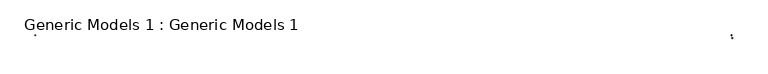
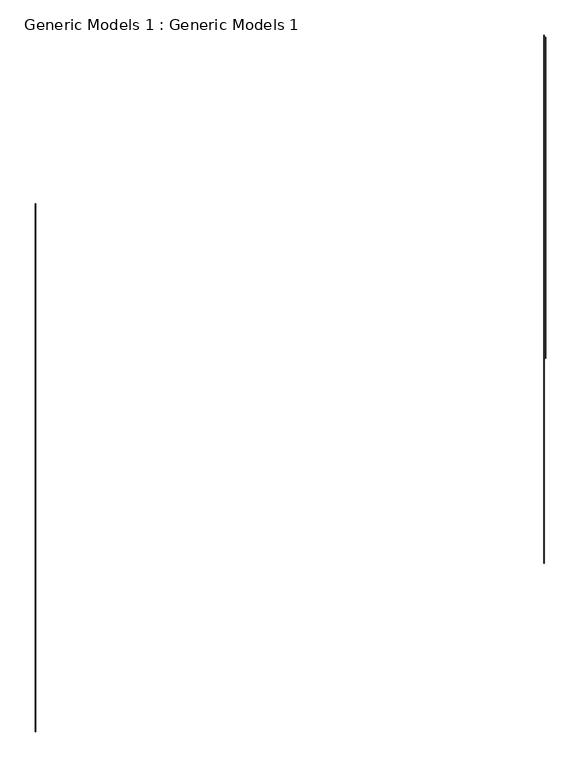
"""IFC4 building model written with IfcOpenShell, lengths in millimetres: proxy geometry, Generic Models 1 : Generic Models 1."""

from ifc_helpers import new_model, si_unit, point, frame, frame_2d, origin, place, context, project, spatial, circle_curve, trimmed, segment, composite_curve, outline, extrude, source, transform, mapped, element, save


def generic_models_1_generic_models_1_06576977(model_context):
    return source(origin(), model_context, "Body", "SweptSolid", [
        extrude(outline(composite_curve([segment(trimmed(circle_curve(frame_2d((1220.8823571, 1801.311116)), 1.0875352), [point((1219.7948219, 1801.311116))], [point((1221.9698922, 1801.311116))], False, "CARTESIAN"), True, "CONTINUOUS"), segment(trimmed(circle_curve(frame_2d((1220.8823571, 1801.311116)), 1.0875352), [point((1221.9698922, 1801.311116))], [point((1219.7948219, 1801.311116))], False, "CARTESIAN"), True, "CONTINUOUS")], self_intersect=False)), frame((0.0, 0.0, 2999.0640172), z_axis=(0.0, 0.0, 1.0), x_axis=(1.0, 0.0, 0.0)), (0.0, 0.0, 1.0), 1514.7752501),
        extrude(outline(composite_curve([segment(trimmed(circle_curve(frame_2d((1218.2404014, 1810.9175115)), 1.0875352), [point((1217.1528662, 1810.9175115))], [point((1219.3279366, 1810.9175115))], False, "CARTESIAN"), True, "CONTINUOUS"), segment(trimmed(circle_curve(frame_2d((1218.2404014, 1810.9175115)), 1.0875352), [point((1219.3279366, 1810.9175115))], [point((1217.1528662, 1810.9175115))], False, "CARTESIAN"), True, "CONTINUOUS")], self_intersect=False)), frame((0.0, 0.0, 2024.973402), z_axis=(0.0, 0.0, 1.0), x_axis=(1.0, 0.0, 0.0)), (0.0, 0.0, 1.0), 2491.8195161),
        extrude(outline(composite_curve([segment(trimmed(circle_curve(frame_2d((-1055.9601486, 1810.9175115)), 1.0875352), [point((-1057.0476838, 1810.9175115))], [point((-1054.8726134, 1810.9175115))], False, "CARTESIAN"), True, "CONTINUOUS"), segment(trimmed(circle_curve(frame_2d((-1055.9601486, 1810.9175115)), 1.0875352), [point((-1054.8726134, 1810.9175115))], [point((-1057.0476838, 1810.9175115))], False, "CARTESIAN"), True, "CONTINUOUS")], self_intersect=False)), frame((0.0, 0.0, 2024.973402), z_axis=(0.0, 0.0, 1.0), x_axis=(1.0, 0.0, 0.0)), (0.0, 0.0, 1.0), 2492.8206038),
    ])


if __name__ == "__main__":
    model = new_model("IFC4")
    model_context = context("Model", 3, world=origin())
    ifc_project = project(units=[si_unit("LENGTHUNIT", "METRE", prefix="MILLI")], contexts=[model_context])
    site = spatial("IfcSite", under=ifc_project)
    building = spatial("IfcBuilding", under=site)
    placement = place(None, origin())
    generic_models_1_generic_models_1_shape = generic_models_1_generic_models_1_06576977(model_context)
    element("IfcBuildingElementProxy", 1, Name="Generic Models 1 : Generic Models 1", ObjectType="Generic Models 1 : Generic Models 1", at=placement, inside=building, context=model_context, shape_type="MappedRepresentation", body=[
        mapped(generic_models_1_generic_models_1_shape, transform((0.0, 0.0, 0.0), x_axis=(1.0, 0.0, 0.0), y_axis=(0.0, 1.0, 0.0), z_axis=(0.0, 0.0, 1.0))),
    ])
    save(model, "model.ifc")
